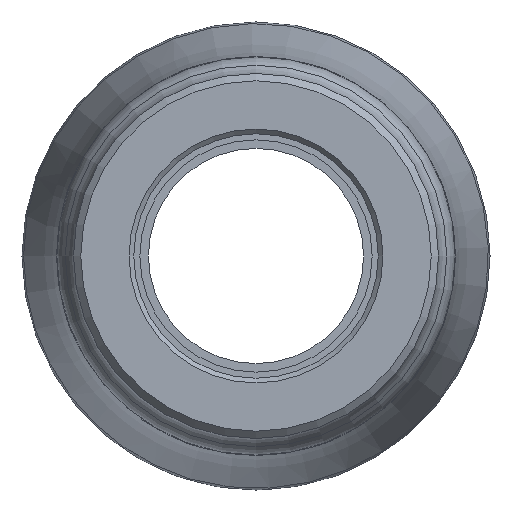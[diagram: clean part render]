
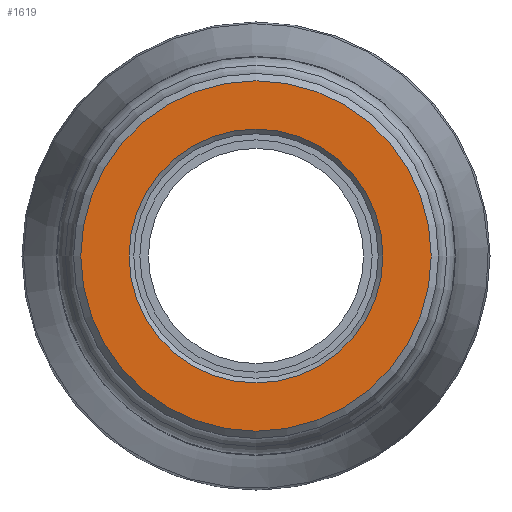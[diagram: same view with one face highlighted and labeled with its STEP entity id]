
A CAD part, left-side view. The second image highlights one B-rep face of the part: STEP entity #1619.
In plain terms, the highlighted planar face has unit normal (-1, 0, 0).
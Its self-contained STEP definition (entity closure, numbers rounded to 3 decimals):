
#29=FACE_BOUND('',#401,.T.);
#212=PLANE('',#1776);
#290=FACE_OUTER_BOUND('',#400,.T.);
#400=EDGE_LOOP('',(#1219));
#401=EDGE_LOOP('',(#1220));
#542=CIRCLE('',#1775,15.726);
#543=CIRCLE('',#1777,21.711);
#728=VERTEX_POINT('',#2882);
#729=VERTEX_POINT('',#2885);
#910=EDGE_CURVE('',#728,#728,#542,.T.);
#911=EDGE_CURVE('',#729,#729,#543,.T.);
#1219=ORIENTED_EDGE('',*,*,#911,.F.);
#1220=ORIENTED_EDGE('',*,*,#910,.F.);
#1619=ADVANCED_FACE('',(#290,#29),#212,.T.);
#1775=AXIS2_PLACEMENT_3D('',#2883,#2067,#2068);
#1776=AXIS2_PLACEMENT_3D('',#2884,#2069,#2070);
#1777=AXIS2_PLACEMENT_3D('',#2886,#2071,#2072);
#2067=DIRECTION('center_axis',(-1.,0.,0.));
#2068=DIRECTION('ref_axis',(0.,-1.,0.));
#2069=DIRECTION('center_axis',(-1.,0.,0.));
#2070=DIRECTION('ref_axis',(0.,0.,1.));
#2071=DIRECTION('center_axis',(1.,0.,0.));
#2072=DIRECTION('ref_axis',(0.,-1.,0.));
#2882=CARTESIAN_POINT('',(0.,15.726,0.));
#2883=CARTESIAN_POINT('Origin',(0.,0.,0.));
#2884=CARTESIAN_POINT('Origin',(0.,22.62,0.));
#2885=CARTESIAN_POINT('',(0.,21.711,0.));
#2886=CARTESIAN_POINT('Origin',(0.,0.,0.));
